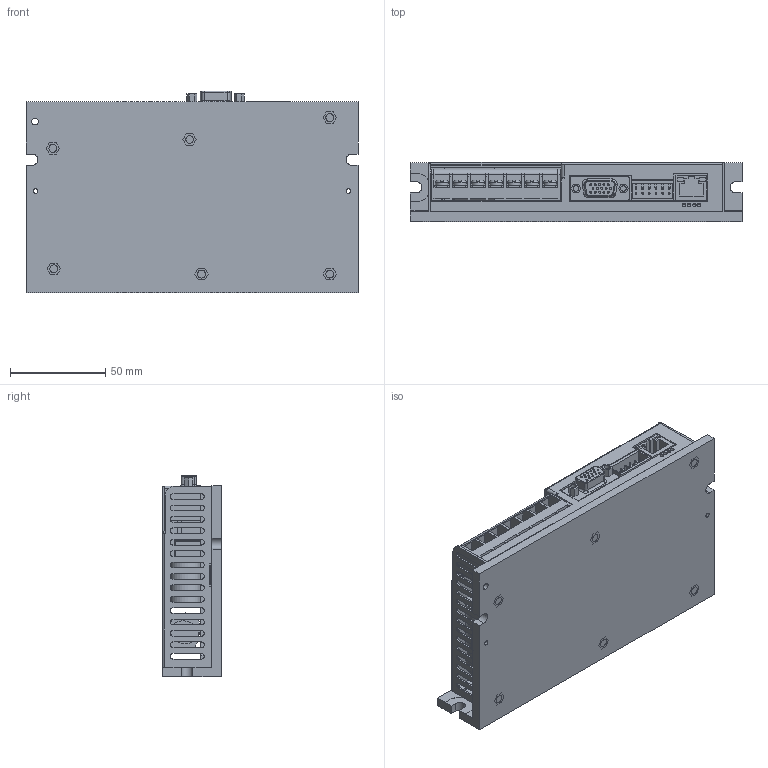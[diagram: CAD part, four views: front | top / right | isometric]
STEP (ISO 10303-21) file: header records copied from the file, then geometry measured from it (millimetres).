
FILE_DESCRIPTION((''),'2;1');
FILE_NAME('FD134S_ASM','2022-11-09T10:40:11',('RD0060'),(''),'CREO PARAMETRIC BY PTC INC, 2016510','CREO PARAMETRIC BY PTC INC, 2016510','');
FILE_SCHEMA(('CONFIG_CONTROL_DESIGN'));
Length unit declared in the file: millimetre
Products named in the file (19): PCB; DINKLE-0156-2512L; DINKLE-0156-2512L_ASM; WEBKOU_15; TTL_ASM; BOMA_4; DT49C91W-1; DT49C91W2; SCREW-M3-4-7; DT49C91W_ASM; 15ZHEN-DAOLISHI_2; CAP; PCB-ASM_ASM; THERMAL; HEATSINK; M300; ECK; FD134S-EA; FD134S_ASM
Assembly tree (29 placements, depth 4):
  FD134S_ASM
    PCB-ASM_ASM
      PCB
      DINKLE-0156-2512L_ASM
        DINKLE-0156-2512L
      TTL_ASM
        WEBKOU_15
      BOMA_4
      DT49C91W_ASM
        DT49C91W-1
        DT49C91W2
        SCREW-M3-4-7  x7
      15ZHEN-DAOLISHI_2
      CAP
    THERMAL
    HEATSINK
    M300  x6
    ECK
    FD134S-EA
Bounding box: 174.65 x 31 x 105.93 mm (x, y, z)
Volume: 237147.8 mm3; surface area: 165575 mm2
Topology: 40 solids, 40 shells, 1230 faces, 3068 edges, 2005 vertices
Faces by surface type: plane 791, cylinder 405, torus 22, cone 12
Entity records: 28108 total; most frequent: DIRECTION 4866, CARTESIAN_POINT 4837, ORIENTED_EDGE 4596, EDGE_CURVE 2298, VECTOR 1690, LINE 1690, AXIS2_PLACEMENT_3D 1588, VERTEX_POINT 1499
